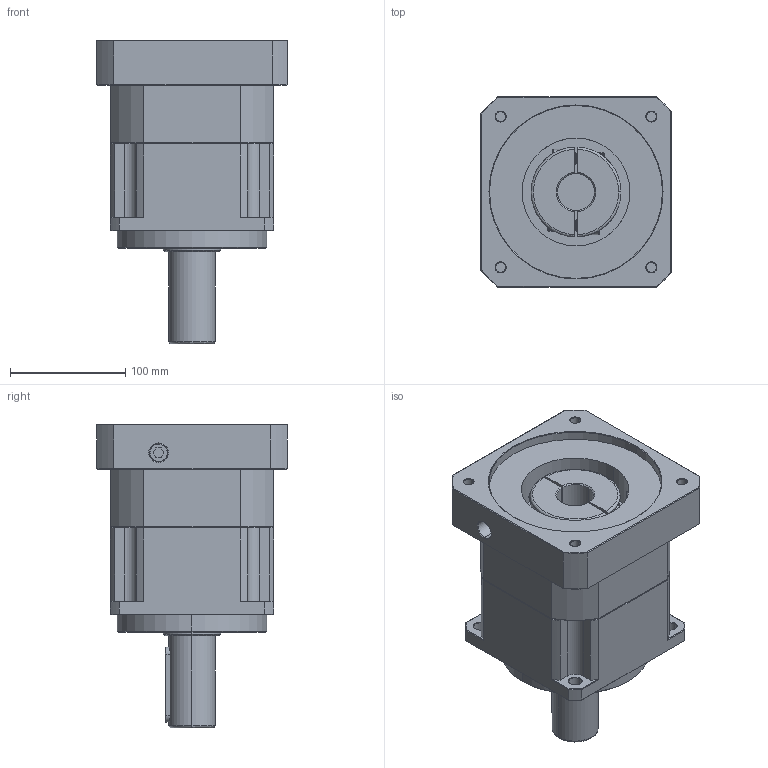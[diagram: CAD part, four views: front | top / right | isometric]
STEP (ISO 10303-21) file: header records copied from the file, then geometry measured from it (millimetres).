
FILE_DESCRIPTION (( 'STEP AP214' ), '1' );
FILE_NAME ('ZPB142-L1-P1-S2-32-150-185-M10.step', '2024-07-05T00:16:19', ( 'Windows 蚚誧' ), ( 'Organization' ), 'SwSTEP 2.0', 'SolidWorks 2016', '' );
FILE_SCHEMA (( 'AUTOMOTIVE_DESIGN' ));
Length unit declared in the file: millimetre
Products named in the file (1): ZPB142-L1-P1-S2-32-150-185-M10
Bounding box: 165 x 165 x 263.5 mm (x, y, z)
Surface area: 220851.4 mm2 (no closed solid volume)
Topology: 0 solids, 37 shells, 1769 faces, 4724 edges, 3030 vertices
Faces by surface type: plane 912, bspline 383, cone 263, cylinder 211
Full cylindrical faces by diameter (mm): 14 x1
Entity records: 99890 total; most frequent: CARTESIAN_POINT 50502, ORIENTED_EDGE 9423, DIRECTION 7228, EDGE_CURVE 4723, VECTOR 3138, LINE 3138, VERTEX_POINT 3030, AXIS2_PLACEMENT_3D 2045
